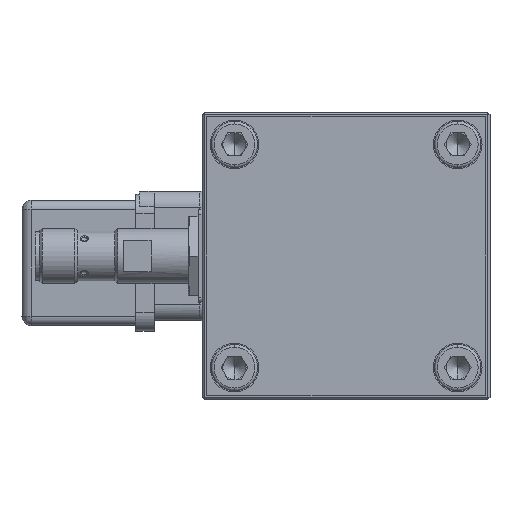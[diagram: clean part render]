
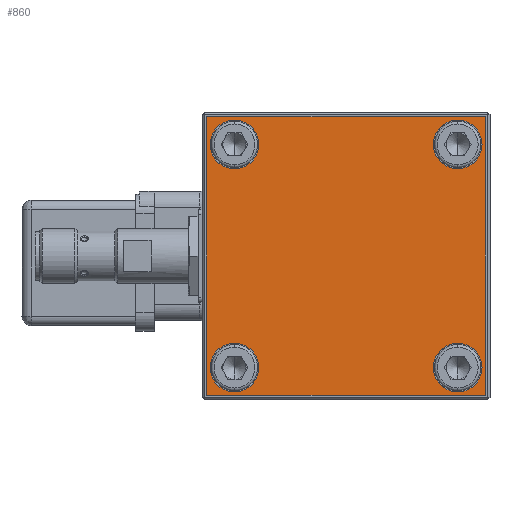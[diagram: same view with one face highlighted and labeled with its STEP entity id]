
A CAD part, left-side view. The second image highlights one B-rep face of the part: STEP entity #860.
In plain terms, the highlighted planar face has unit normal (-1, 0, 0).
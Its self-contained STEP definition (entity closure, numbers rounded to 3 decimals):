
#30 = AXIS2_PLACEMENT_3D ( 'NONE', #14723, #13155, #11660 ) ;
#626 = AXIS2_PLACEMENT_3D ( 'NONE', #11429, #18534, #11075 ) ;
#725 = DIRECTION ( 'NONE',  ( -1., 0., 0. ) ) ;
#860 = ADVANCED_FACE ( 'NONE', ( #21717, #14372, #2108, #7466, #14606 ), #10509, .T. ) ;
#908 = LINE ( 'NONE', #7805, #6416 ) ;
#938 = EDGE_LOOP ( 'NONE', ( #5702, #9292 ) ) ;
#1166 = VERTEX_POINT ( 'NONE', #5234 ) ;
#1346 = CARTESIAN_POINT ( 'NONE',  ( -17.8, 30., -30. ) ) ;
#1401 = VERTEX_POINT ( 'NONE', #10497 ) ;
#1442 = EDGE_CURVE ( 'NONE', #4015, #10618, #1953, .T. ) ;
#1953 = CIRCLE ( 'NONE', #5689, 5.25 ) ;
#2108 = FACE_BOUND ( 'NONE', #938, .T. ) ;
#2250 = DIRECTION ( 'NONE',  ( 0., 0., 1. ) ) ;
#2577 = CARTESIAN_POINT ( 'NONE',  ( -17.8, 30., 30. ) ) ;
#2664 = DIRECTION ( 'NONE',  ( -1., 0., 0. ) ) ;
#2667 = EDGE_CURVE ( 'NONE', #19269, #1401, #12101, .T. ) ;
#2931 = AXIS2_PLACEMENT_3D ( 'NONE', #22686, #2664, #13271 ) ;
#3080 = ORIENTED_EDGE ( 'NONE', *, *, #12942, .F. ) ;
#3273 = AXIS2_PLACEMENT_3D ( 'NONE', #18765, #4302, #11301 ) ;
#3850 = DIRECTION ( 'NONE',  ( 0., 0., 1. ) ) ;
#4015 = VERTEX_POINT ( 'NONE', #16111 ) ;
#4041 = ORIENTED_EDGE ( 'NONE', *, *, #6728, .F. ) ;
#4302 = DIRECTION ( 'NONE',  ( -1., 0., 0. ) ) ;
#4744 = CARTESIAN_POINT ( 'NONE',  ( -17.8, -30., -30. ) ) ;
#4859 = EDGE_CURVE ( 'NONE', #1401, #19269, #13498, .T. ) ;
#5135 = CARTESIAN_POINT ( 'NONE',  ( -17.8, -30., 30. ) ) ;
#5234 = CARTESIAN_POINT ( 'NONE',  ( -17.8, -24.04, 29.29 ) ) ;
#5378 = VECTOR ( 'NONE', #10483, 1000. ) ;
#5689 = AXIS2_PLACEMENT_3D ( 'NONE', #19967, #16250, #3850 ) ;
#5702 = ORIENTED_EDGE ( 'NONE', *, *, #8766, .F. ) ;
#5734 = CARTESIAN_POINT ( 'NONE',  ( -17.8, 24.04, -24.04 ) ) ;
#5934 = DIRECTION ( 'NONE',  ( 0., 1., 0. ) ) ;
#6206 = DIRECTION ( 'NONE',  ( -1., 0., 0. ) ) ;
#6416 = VECTOR ( 'NONE', #21954, 1000. ) ;
#6639 = CIRCLE ( 'NONE', #626, 5.25 ) ;
#6728 = EDGE_CURVE ( 'NONE', #12242, #8333, #19489, .T. ) ;
#7466 = FACE_BOUND ( 'NONE', #15979, .T. ) ;
#7759 = AXIS2_PLACEMENT_3D ( 'NONE', #19632, #14740, #18101 ) ;
#7805 = CARTESIAN_POINT ( 'NONE',  ( -17.8, -30., 30. ) ) ;
#8096 = ORIENTED_EDGE ( 'NONE', *, *, #1442, .F. ) ;
#8333 = VERTEX_POINT ( 'NONE', #4744 ) ;
#8450 = CARTESIAN_POINT ( 'NONE',  ( -17.8, 30., 30. ) ) ;
#8507 = CARTESIAN_POINT ( 'NONE',  ( -17.8, 24.04, -29.29 ) ) ;
#8766 = EDGE_CURVE ( 'NONE', #1166, #12740, #6639, .T. ) ;
#8854 = EDGE_CURVE ( 'NONE', #12740, #1166, #12217, .T. ) ;
#8903 = EDGE_CURVE ( 'NONE', #10618, #4015, #16004, .T. ) ;
#9095 = ORIENTED_EDGE ( 'NONE', *, *, #19556, .F. ) ;
#9123 = CARTESIAN_POINT ( 'NONE',  ( -17.8, 30., 30. ) ) ;
#9292 = ORIENTED_EDGE ( 'NONE', *, *, #8854, .F. ) ;
#9400 = LINE ( 'NONE', #21684, #10062 ) ;
#9658 = DIRECTION ( 'NONE',  ( 0., 0., 1. ) ) ;
#9712 = EDGE_LOOP ( 'NONE', ( #23046, #21864, #9095, #4041 ) ) ;
#9822 = EDGE_LOOP ( 'NONE', ( #12028, #17638 ) ) ;
#9926 = ORIENTED_EDGE ( 'NONE', *, *, #8903, .F. ) ;
#10062 = VECTOR ( 'NONE', #5934, 1000. ) ;
#10332 = EDGE_LOOP ( 'NONE', ( #15917, #3080 ) ) ;
#10401 = CARTESIAN_POINT ( 'NONE',  ( -17.8, -24.04, -18.79 ) ) ;
#10483 = DIRECTION ( 'NONE',  ( 0., 0., -1. ) ) ;
#10497 = CARTESIAN_POINT ( 'NONE',  ( -17.8, 24.04, 29.29 ) ) ;
#10509 = PLANE ( 'NONE',  #11545 ) ;
#10616 = VECTOR ( 'NONE', #2250, 1000. ) ;
#10618 = VERTEX_POINT ( 'NONE', #10401 ) ;
#11075 = DIRECTION ( 'NONE',  ( 0., 0., 1. ) ) ;
#11270 = DIRECTION ( 'NONE',  ( 0., 0., 1. ) ) ;
#11301 = DIRECTION ( 'NONE',  ( 0., 0., 1. ) ) ;
#11429 = CARTESIAN_POINT ( 'NONE',  ( -17.8, -24.04, 24.04 ) ) ;
#11545 = AXIS2_PLACEMENT_3D ( 'NONE', #2577, #6206, #9658 ) ;
#11660 = DIRECTION ( 'NONE',  ( 0., 0., 1. ) ) ;
#12028 = ORIENTED_EDGE ( 'NONE', *, *, #4859, .F. ) ;
#12101 = CIRCLE ( 'NONE', #12476, 5.25 ) ;
#12217 = CIRCLE ( 'NONE', #2931, 5.25 ) ;
#12242 = VERTEX_POINT ( 'NONE', #22723 ) ;
#12476 = AXIS2_PLACEMENT_3D ( 'NONE', #20265, #725, #11270 ) ;
#12740 = VERTEX_POINT ( 'NONE', #13675 ) ;
#12825 = DIRECTION ( 'NONE',  ( 0., 0., 1. ) ) ;
#12942 = EDGE_CURVE ( 'NONE', #18266, #16564, #20174, .T. ) ;
#13155 = DIRECTION ( 'NONE',  ( -1., 0., 0. ) ) ;
#13271 = DIRECTION ( 'NONE',  ( 0., 0., 1. ) ) ;
#13498 = CIRCLE ( 'NONE', #30, 5.25 ) ;
#13675 = CARTESIAN_POINT ( 'NONE',  ( -17.8, -24.04, 18.79 ) ) ;
#13958 = EDGE_CURVE ( 'NONE', #16564, #18266, #20829, .T. ) ;
#14372 = FACE_BOUND ( 'NONE', #9822, .T. ) ;
#14606 = FACE_OUTER_BOUND ( 'NONE', #9712, .T. ) ;
#14723 = CARTESIAN_POINT ( 'NONE',  ( -17.8, 24.04, 24.04 ) ) ;
#14740 = DIRECTION ( 'NONE',  ( -1., 0., 0. ) ) ;
#15079 = CARTESIAN_POINT ( 'NONE',  ( -17.8, 24.04, 18.79 ) ) ;
#15917 = ORIENTED_EDGE ( 'NONE', *, *, #13958, .F. ) ;
#15979 = EDGE_LOOP ( 'NONE', ( #9926, #8096 ) ) ;
#16004 = CIRCLE ( 'NONE', #3273, 5.25 ) ;
#16007 = EDGE_CURVE ( 'NONE', #20330, #17203, #21736, .T. ) ;
#16100 = AXIS2_PLACEMENT_3D ( 'NONE', #5734, #18097, #12825 ) ;
#16111 = CARTESIAN_POINT ( 'NONE',  ( -17.8, -24.04, -29.29 ) ) ;
#16250 = DIRECTION ( 'NONE',  ( -1., 0., 0. ) ) ;
#16564 = VERTEX_POINT ( 'NONE', #21679 ) ;
#17203 = VERTEX_POINT ( 'NONE', #8450 ) ;
#17638 = ORIENTED_EDGE ( 'NONE', *, *, #2667, .F. ) ;
#18097 = DIRECTION ( 'NONE',  ( -1., 0., 0. ) ) ;
#18101 = DIRECTION ( 'NONE',  ( 0., 0., 1. ) ) ;
#18266 = VERTEX_POINT ( 'NONE', #8507 ) ;
#18534 = DIRECTION ( 'NONE',  ( -1., 0., 0. ) ) ;
#18765 = CARTESIAN_POINT ( 'NONE',  ( -17.8, -24.04, -24.04 ) ) ;
#19269 = VERTEX_POINT ( 'NONE', #15079 ) ;
#19489 = LINE ( 'NONE', #5135, #5378 ) ;
#19556 = EDGE_CURVE ( 'NONE', #8333, #20330, #9400, .T. ) ;
#19632 = CARTESIAN_POINT ( 'NONE',  ( -17.8, 24.04, -24.04 ) ) ;
#19967 = CARTESIAN_POINT ( 'NONE',  ( -17.8, -24.04, -24.04 ) ) ;
#20174 = CIRCLE ( 'NONE', #16100, 5.25 ) ;
#20265 = CARTESIAN_POINT ( 'NONE',  ( -17.8, 24.04, 24.04 ) ) ;
#20330 = VERTEX_POINT ( 'NONE', #1346 ) ;
#20829 = CIRCLE ( 'NONE', #7759, 5.25 ) ;
#21679 = CARTESIAN_POINT ( 'NONE',  ( -17.8, 24.04, -18.79 ) ) ;
#21684 = CARTESIAN_POINT ( 'NONE',  ( -17.8, -30., -30. ) ) ;
#21717 = FACE_BOUND ( 'NONE', #10332, .T. ) ;
#21736 = LINE ( 'NONE', #9123, #10616 ) ;
#21739 = EDGE_CURVE ( 'NONE', #17203, #12242, #908, .T. ) ;
#21864 = ORIENTED_EDGE ( 'NONE', *, *, #16007, .F. ) ;
#21954 = DIRECTION ( 'NONE',  ( 0., -1., 0. ) ) ;
#22686 = CARTESIAN_POINT ( 'NONE',  ( -17.8, -24.04, 24.04 ) ) ;
#22723 = CARTESIAN_POINT ( 'NONE',  ( -17.8, -30., 30. ) ) ;
#23046 = ORIENTED_EDGE ( 'NONE', *, *, #21739, .F. ) ;
